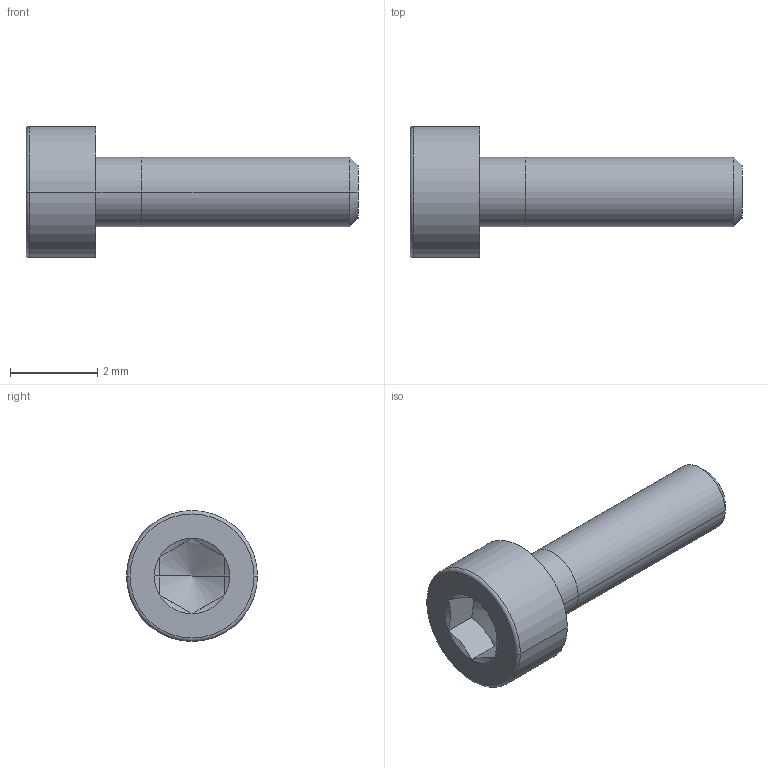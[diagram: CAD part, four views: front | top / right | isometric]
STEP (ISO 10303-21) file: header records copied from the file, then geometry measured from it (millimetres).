
FILE_DESCRIPTION(/* description */ ('VariCAD 2008 3.04 AP-203'),/* implementation_level */ '2;1');
FILE_NAME(/* name */ '0353-97-20',/* time_stamp */ '2009-04-28T13:20:15-06:00',/* author */ (''),/* organization */ (''),/* preprocessor_version */ 'ST-DEVELOPER v12',/* originating_system */ 'VariCAD 2008 3.04; kernel version (20080715)',/* authorisation */ '');
FILE_SCHEMA (('CONFIG_CONTROL_DESIGN'));
Length unit declared in the file: millimetre
Products named in the file (1): Part
Bounding box: 7.6 x 3 x 3 mm (x, y, z)
Volume: 21.5 mm3; surface area: 102.3 mm2
Topology: 2 solids, 2 shells, 35 faces, 72 edges, 41 vertices
Faces by surface type: cone 12, plane 11, cylinder 10, torus 2
Entity records: 1002 total; most frequent: CARTESIAN_POINT 229, DIRECTION 162, ORIENTED_EDGE 140, EDGE_CURVE 70, AXIS2_PLACEMENT_3D 70, VERTEX_POINT 41, EDGE_LOOP 39, ADVANCED_FACE 35
